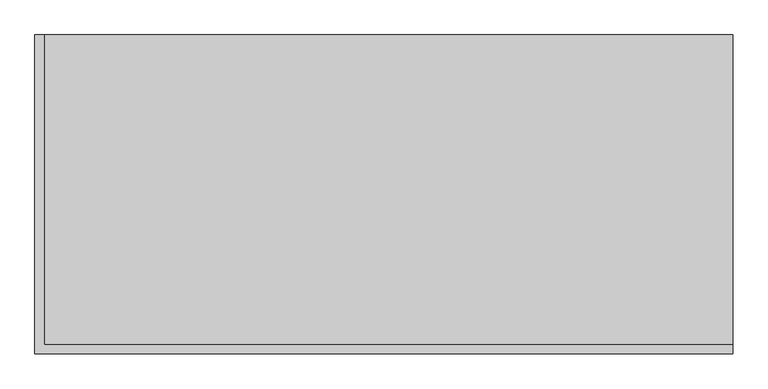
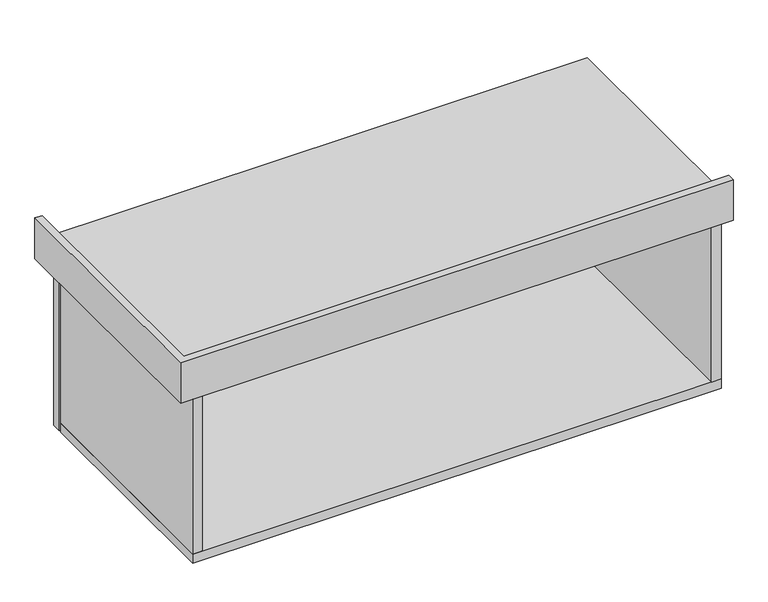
"""IFC4 building model written with IfcOpenShell, lengths in millimetres: furniture geometry, Mueble colgado 1 cajon - lavabo sobreponer : MB2 mueble baño colgado-1 cajon - 90cm 2."""

from ifc_helpers import new_model, si_unit, frame, origin, place, context, project, spatial, polyline, outline, extrude, faceted_brep, source, transform, mapped, element, save


def furniture_1ce3cbb7(model_context):
    return source(origin(), model_context, "Body", "SolidModel", [
        faceted_brep([(-450.0, 595.0, 800.0), (-435.0, 595.0, 800.0), (-435.0, 595.0, 750.0), (700.0, 595.0, 750.0), (700.0, 595.0, 710.0), (-450.0, 595.0, 710.0), (-450.0, 70.0, 800.0), (700.0, 70.0, 800.0), (700.0, 85.0, 800.0), (-435.0, 85.0, 800.0), (-435.0, 85.0, 750.0), (-450.0, 70.0, 710.0), (700.0, 85.0, 750.0), (700.0, 70.0, 710.0)], [[[0, 1, 2, 3, 4, 5]], [[1, 0, 6, 7, 8, 9]], [[2, 1, 9, 10]], [[0, 5, 11, 6]], [[9, 8, 12, 10]], [[7, 6, 11, 13]], [[8, 7, 13, 4, 3, 12]], [[3, 2, 10, 12]], [[4, 13, 11, 5]]]),
        extrude(outline(polyline([(675.0, 570.0), (675.0, 550.0), (-425.0, 550.0), (-425.0, 570.0), (675.0, 570.0)])), frame((0.0, 0.0, 350.0), z_axis=(0.0, 0.0, 1.0), x_axis=(1.0, 0.0, 0.0)), (0.0, 0.0, 1.0), 350.0),
        extrude(outline(polyline([(675.0, 70.0), (655.0, 70.0), (655.0, 545.0), (675.0, 545.0), (675.0, 70.0)])), frame((0.0, 0.0, 370.0), z_axis=(0.0, 0.0, 1.0), x_axis=(1.0, 0.0, 0.0)), (0.0, 0.0, 1.0), 340.0),
        extrude(outline(polyline([(-405.0, 70.0), (-425.0, 70.0), (-425.0, 545.0), (-405.0, 545.0), (-405.0, 70.0)])), frame((0.0, 0.0, 370.0), z_axis=(0.0, 0.0, 1.0), x_axis=(1.0, 0.0, 0.0)), (0.0, 0.0, 1.0), 340.0),
        extrude(outline(polyline([(675.0, 545.0), (675.0, 70.0), (-425.0, 70.0), (-425.0, 545.0), (675.0, 545.0)])), frame((0.0, 0.0, 350.0), z_axis=(0.0, 0.0, 1.0), x_axis=(1.0, 0.0, 0.0)), (0.0, 0.0, 1.0), 20.0),
    ])


if __name__ == "__main__":
    model = new_model("IFC4")
    model_context = context("Model", 3, world=origin())
    ifc_project = project(units=[si_unit("LENGTHUNIT", "METRE", prefix="MILLI")], contexts=[model_context])
    site = spatial("IfcSite", under=ifc_project)
    building = spatial("IfcBuilding", under=site)
    placement = place(None, origin())
    furniture_shape = furniture_1ce3cbb7(model_context)
    element("IfcFurniture", 1, ObjectType="Mueble colgado 1 cajon - lavabo sobreponer : MB2 mueble baño colgado-1 cajon - 90cm 2", at=placement, inside=building, context=model_context, shape_type="MappedRepresentation", body=[
        mapped(furniture_shape, transform((0.0, 0.0, 0.0), x_axis=(1.0, 0.0, 0.0), y_axis=(0.0, 1.0, 0.0), z_axis=(0.0, 0.0, 1.0))),
    ])
    save(model, "model.ifc")
